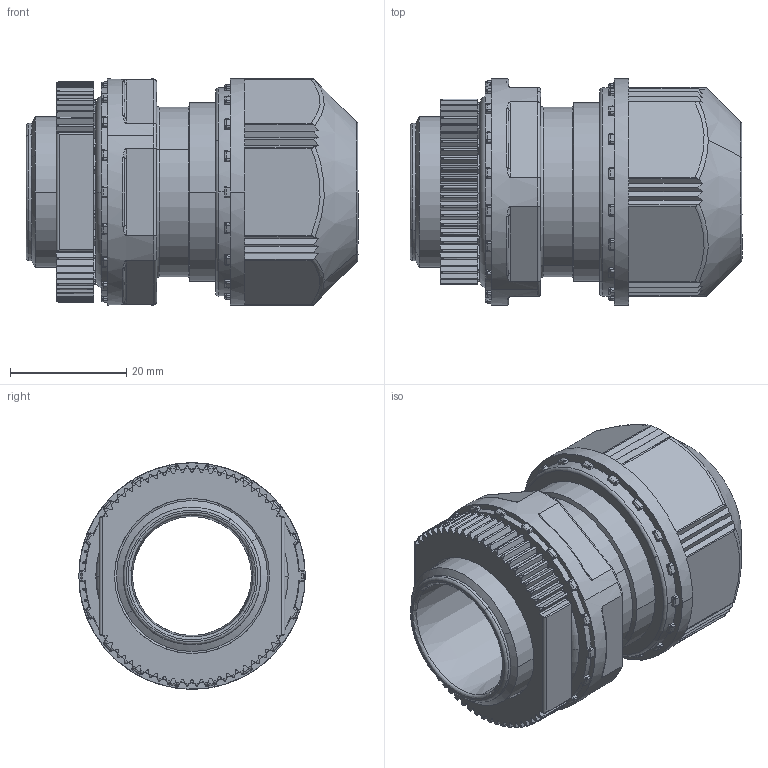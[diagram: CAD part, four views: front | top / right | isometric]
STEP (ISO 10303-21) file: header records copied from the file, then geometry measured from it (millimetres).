
FILE_DESCRIPTION(('Creo Elements/Direct Modeling STEP Export'),'2;1');
FILE_NAME('H17-0008-CL901-01_OA-WW22-11／20.stp','2022-09-15T13:44:30',(''),(''),'Creo Elements/Direct Modeling STEP processor for AP214 (Solid Model)','Creo Elements/Direct Modeling 20.3A 20-Jun-2020 (C) Parametric Technology GmbH','');
FILE_SCHEMA(('AUTOMOTIVE_DESIGN { 1 0 10303 214 1 1 1 1 }'));
Products named in the file (3): Nipple; Locknut; OA-WW22-11-20
Assembly tree (2 placements, depth 2):
  OA-WW22-11-20
    Locknut
    Nipple
Bounding box: 57.2 x 39 x 39 mm (x, y, z)
Volume: 33010.5 mm3; surface area: 15108.1 mm2
Topology: 2 solids, 2 shells, 1065 faces, 2983 edges, 1914 vertices
Faces by surface type: bspline 326, plane 294, cylinder 229, torus 126, cone 66, sphere 24
Entity records: 60000 total; most frequent: CARTESIAN_POINT 36930, ORIENTED_EDGE 5918, DIRECTION 3092, EDGE_CURVE 2959, VERTEX_POINT 1914, B_SPLINE_CURVE_WITH_KNOTS 1196, AXIS2_PLACEMENT_3D 1134, EDGE_LOOP 1085
